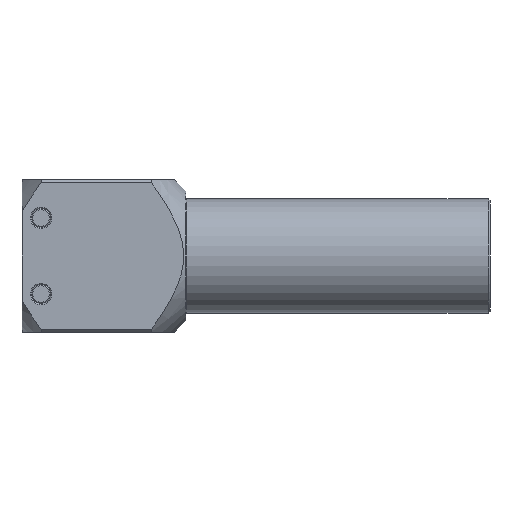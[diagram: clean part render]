
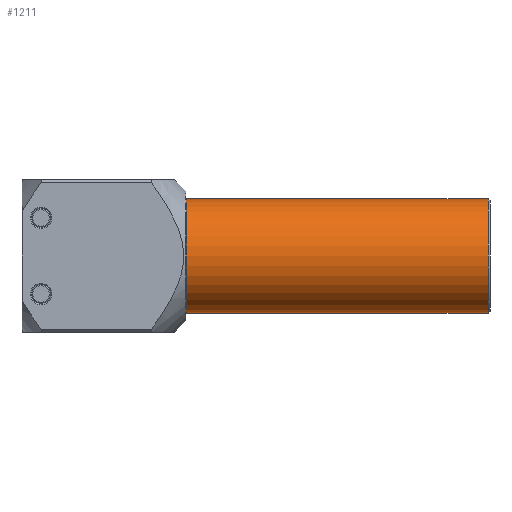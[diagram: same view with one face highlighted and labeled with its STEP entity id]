
A CAD part, left-side view. The second image highlights one B-rep face of the part: STEP entity #1211.
In plain terms, the highlighted cylindrical face has radius 15 mm (diameter 30 mm), a partial arc.
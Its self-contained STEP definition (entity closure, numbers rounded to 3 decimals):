
#80 = CARTESIAN_POINT ( 'NONE',  ( 0., 79.8, 15. ) ) ;
#111 = ORIENTED_EDGE ( 'NONE', *, *, #3158, .T. ) ;
#168 = CARTESIAN_POINT ( 'NONE',  ( 0., 123., -15. ) ) ;
#602 = CARTESIAN_POINT ( 'NONE',  ( 0., 0.5, 0. ) ) ;
#619 = EDGE_CURVE ( 'NONE', #4073, #7669, #1730, .T. ) ;
#895 = DIRECTION ( 'NONE',  ( 0., 1., 0. ) ) ;
#965 = VECTOR ( 'NONE', #7162, 1000. ) ;
#999 = EDGE_LOOP ( 'NONE', ( #2530, #3695, #111, #6869 ) ) ;
#1019 = AXIS2_PLACEMENT_3D ( 'NONE', #2422, #7508, #3133 ) ;
#1211 = ADVANCED_FACE ( 'NONE', ( #4414 ), #6100, .T. ) ;
#1342 = DIRECTION ( 'NONE',  ( 0., 0., 1. ) ) ;
#1730 = CIRCLE ( 'NONE', #1019, 15. ) ;
#2422 = CARTESIAN_POINT ( 'NONE',  ( 0., 79.8, 0. ) ) ;
#2530 = ORIENTED_EDGE ( 'NONE', *, *, #4408, .F. ) ;
#3110 = LINE ( 'NONE', #3528, #965 ) ;
#3133 = DIRECTION ( 'NONE',  ( 0., 0., 1. ) ) ;
#3158 = EDGE_CURVE ( 'NONE', #8890, #4073, #3110, .T. ) ;
#3406 = CARTESIAN_POINT ( 'NONE',  ( 0., 0.5, 15. ) ) ;
#3528 = CARTESIAN_POINT ( 'NONE',  ( 0., 123., 15. ) ) ;
#3542 = EDGE_CURVE ( 'NONE', #6868, #8890, #5272, .T. ) ;
#3695 = ORIENTED_EDGE ( 'NONE', *, *, #3542, .T. ) ;
#4052 = AXIS2_PLACEMENT_3D ( 'NONE', #602, #5680, #1342 ) ;
#4073 = VERTEX_POINT ( 'NONE', #80 ) ;
#4325 = DIRECTION ( 'NONE',  ( 0., 0., 1. ) ) ;
#4408 = EDGE_CURVE ( 'NONE', #6868, #7669, #7633, .T. ) ;
#4414 = FACE_OUTER_BOUND ( 'NONE', #999, .T. ) ;
#5272 = CIRCLE ( 'NONE', #4052, 15. ) ;
#5680 = DIRECTION ( 'NONE',  ( 0., 1., 0. ) ) ;
#5780 = CARTESIAN_POINT ( 'NONE',  ( 0., 123., 0. ) ) ;
#6100 = CYLINDRICAL_SURFACE ( 'NONE', #6993, 15. ) ;
#6868 = VERTEX_POINT ( 'NONE', #9402 ) ;
#6869 = ORIENTED_EDGE ( 'NONE', *, *, #619, .T. ) ;
#6993 = AXIS2_PLACEMENT_3D ( 'NONE', #5780, #9398, #4325 ) ;
#7162 = DIRECTION ( 'NONE',  ( 0., 1., 0. ) ) ;
#7408 = VECTOR ( 'NONE', #895, 1000. ) ;
#7508 = DIRECTION ( 'NONE',  ( 0., -1., 0. ) ) ;
#7633 = LINE ( 'NONE', #168, #7408 ) ;
#7669 = VERTEX_POINT ( 'NONE', #8417 ) ;
#8417 = CARTESIAN_POINT ( 'NONE',  ( 0., 79.8, -15. ) ) ;
#8890 = VERTEX_POINT ( 'NONE', #3406 ) ;
#9398 = DIRECTION ( 'NONE',  ( 0., 1., 0. ) ) ;
#9402 = CARTESIAN_POINT ( 'NONE',  ( 0., 0.5, -15. ) ) ;
